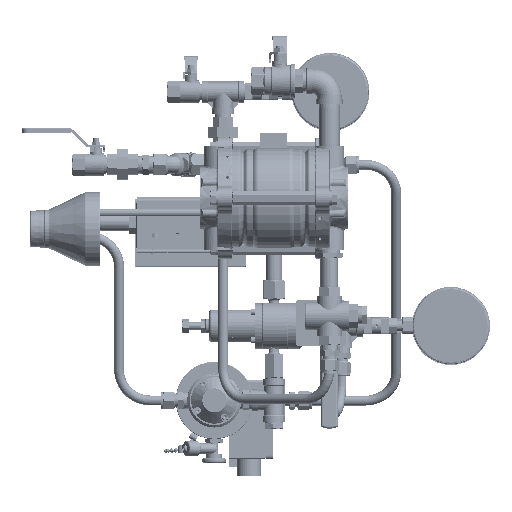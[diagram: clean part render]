
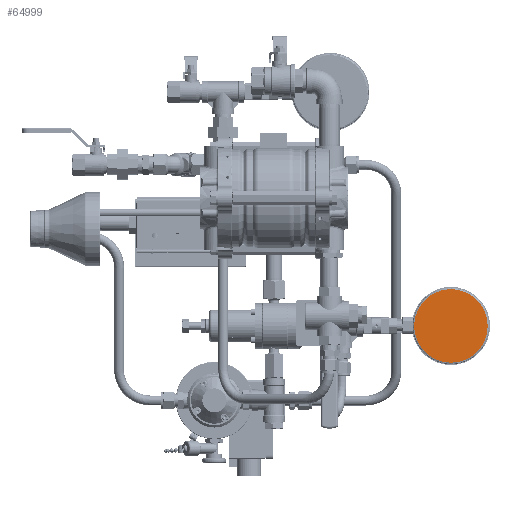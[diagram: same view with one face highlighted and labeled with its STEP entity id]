
A CAD part, top view. The second image highlights one B-rep face of the part: STEP entity #64999.
In plain terms, the highlighted planar face has unit normal (0, 0, 1) as drawn and (0, 0, -1) by its records, which use the part's own axes.
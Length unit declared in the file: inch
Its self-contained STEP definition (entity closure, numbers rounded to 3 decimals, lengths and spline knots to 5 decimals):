
#14826=PLANE('',#74590);
#20310=FACE_OUTER_BOUND('',#25874,.T.);
#25874=EDGE_LOOP('',(#59376));
#29168=CIRCLE('',#74577,47.5);
#34799=VERTEX_POINT('',#127135);
#43095=EDGE_CURVE('',#34799,#34799,#29168,.T.);
#59376=ORIENTED_EDGE('',*,*,#43095,.F.);
#64999=ADVANCED_FACE('',(#20310),#14826,.F.);
#74577=AXIS2_PLACEMENT_3D('',#127136,#91994,#91995);
#74590=AXIS2_PLACEMENT_3D('',#127155,#92020,#92021);
#91994=DIRECTION('center_axis',(0.,0.,1.));
#91995=DIRECTION('ref_axis',(1.,0.,0.));
#92020=DIRECTION('center_axis',(0.,0.,1.));
#92021=DIRECTION('ref_axis',(1.,0.,0.));
#127135=CARTESIAN_POINT('',(-47.5,0.,-49.));
#127136=CARTESIAN_POINT('Origin',(0.,0.,-49.));
#127155=CARTESIAN_POINT('Origin',(0.,0.,-49.));
